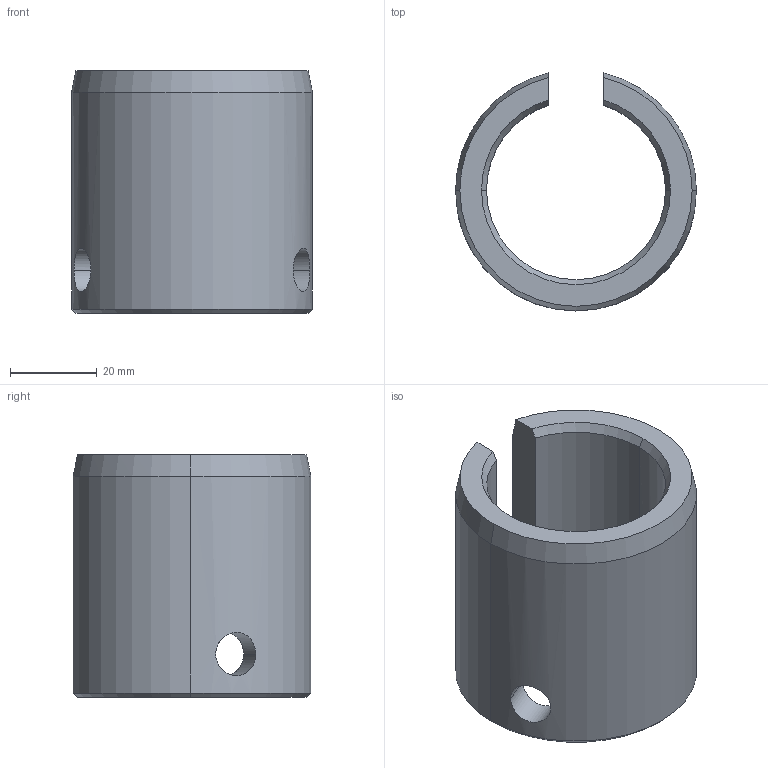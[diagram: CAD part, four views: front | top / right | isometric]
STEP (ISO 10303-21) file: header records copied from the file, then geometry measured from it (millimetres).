
FILE_DESCRIPTION (( 'STEP AP203' ), '1' );
FILE_NAME ('KBSH083P26.STEP', '2023-08-01T05:26:51', ( '' ), ( '' ), 'SwSTEP 2.0', 'SolidWorks 2017', '' );
FILE_SCHEMA (( 'CONFIG_CONTROL_DESIGN' ));
Length unit declared in the file: millimetre
Products named in the file (1): KBSH083P26
Bounding box: 55.56 x 54.83 x 56 mm (x, y, z)
Volume: 53827.7 mm3; surface area: 18098.8 mm2
Topology: 1 solids, 1 shells, 26 faces, 64 edges, 40 vertices
Faces by surface type: cone 12, cylinder 10, plane 4
Entity records: 1137 total; most frequent: CARTESIAN_POINT 447, ORIENTED_EDGE 128, DIRECTION 126, EDGE_CURVE 64, AXIS2_PLACEMENT_3D 51, VERTEX_POINT 40, EDGE_LOOP 30, FACE_OUTER_BOUND 26
